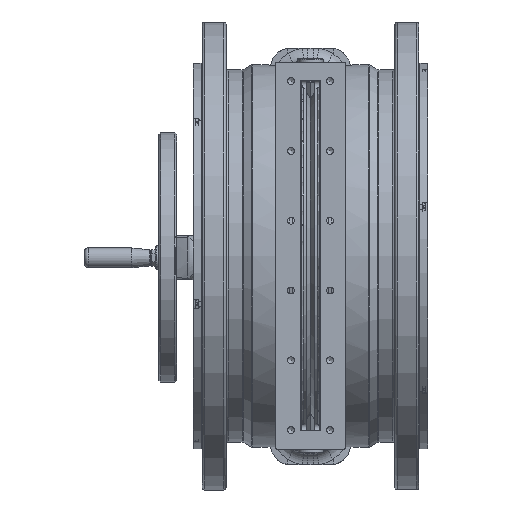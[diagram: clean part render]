
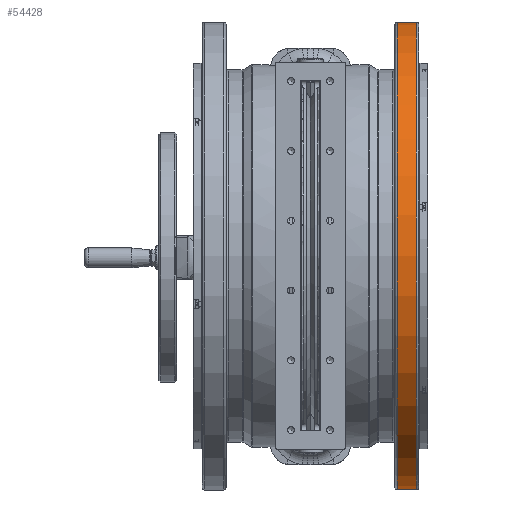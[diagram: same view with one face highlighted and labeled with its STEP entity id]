
A CAD part, top view. The second image highlights one B-rep face of the part: STEP entity #54428.
In plain terms, the highlighted cylindrical face has radius 295 mm (diameter 590 mm), a full revolution.
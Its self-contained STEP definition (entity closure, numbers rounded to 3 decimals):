
#6671=LINE('',#110427,#10057);
#10057=VECTOR('',#71543,295.);
#11901=CYLINDRICAL_SURFACE('',#59618,295.);
#14525=FACE_OUTER_BOUND('',#17919,.T.);
#17919=EDGE_LOOP('',(#45217,#45218,#45219,#45220,#45221));
#21392=CIRCLE('',#59503,295.);
#21393=CIRCLE('',#59504,295.);
#21472=CIRCLE('',#59619,295.);
#25730=VERTEX_POINT('',#103121);
#25731=VERTEX_POINT('',#103122);
#25772=VERTEX_POINT('',#110426);
#32463=EDGE_CURVE('',#25730,#25731,#21392,.T.);
#32464=EDGE_CURVE('',#25731,#25730,#21393,.T.);
#32570=EDGE_CURVE('',#25731,#25772,#6671,.T.);
#32571=EDGE_CURVE('',#25772,#25772,#21472,.T.);
#45217=ORIENTED_EDGE('',*,*,#32463,.T.);
#45218=ORIENTED_EDGE('',*,*,#32570,.T.);
#45219=ORIENTED_EDGE('',*,*,#32571,.F.);
#45220=ORIENTED_EDGE('',*,*,#32570,.F.);
#45221=ORIENTED_EDGE('',*,*,#32464,.T.);
#54428=ADVANCED_FACE('',(#14525),#11901,.T.);
#59503=AXIS2_PLACEMENT_3D('',#103123,#71297,#71298);
#59504=AXIS2_PLACEMENT_3D('',#103124,#71299,#71300);
#59618=AXIS2_PLACEMENT_3D('',#110425,#71541,#71542);
#59619=AXIS2_PLACEMENT_3D('',#110428,#71544,#71545);
#71297=DIRECTION('center_axis',(1.,0.,0.));
#71298=DIRECTION('ref_axis',(0.,0.,
-1.));
#71299=DIRECTION('center_axis',(1.,0.,0.));
#71300=DIRECTION('ref_axis',(0.,0.,
-1.));
#71541=DIRECTION('center_axis',(-1.,0.,0.));
#71542=DIRECTION('ref_axis',(0.,0.,
-1.));
#71543=DIRECTION('',(1.,0.,0.));
#71544=DIRECTION('center_axis',(1.,0.,0.));
#71545=DIRECTION('ref_axis',(0.,0.,
-1.));
#103121=CARTESIAN_POINT('',(109.5,0.,-295.));
#103122=CARTESIAN_POINT('',(109.5,0.,295.));
#103123=CARTESIAN_POINT('Origin',(109.5,0.,
0.));
#103124=CARTESIAN_POINT('Origin',(109.5,0.,
0.));
#110425=CARTESIAN_POINT('Origin',(131.5,0.,
0.));
#110426=CARTESIAN_POINT('',(133.5,0.,295.));
#110427=CARTESIAN_POINT('',(131.5,0.,295.));
#110428=CARTESIAN_POINT('Origin',(133.5,0.,
0.));
